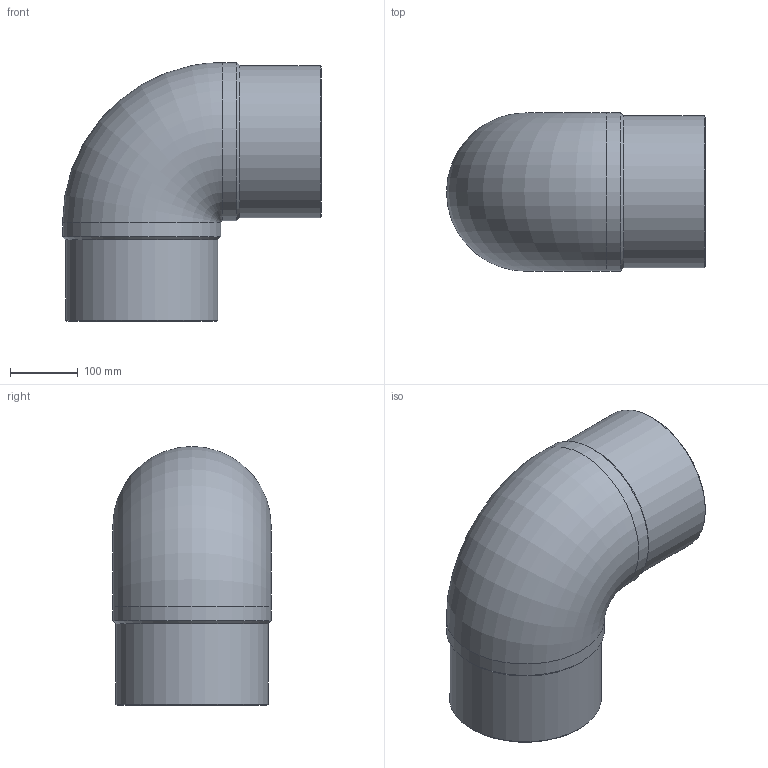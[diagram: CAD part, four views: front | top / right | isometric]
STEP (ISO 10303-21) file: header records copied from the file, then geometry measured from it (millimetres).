
FILE_DESCRIPTION(/* description */ ('Unknown'),/* implementation_level */ '2;1');
FILE_NAME(/* name */ 'G9P225G',/* time_stamp */ '2021-06-22T11:00:38+02:00',/* author */ ('Unknown'),/* organization */ ('Unknown'),/* preprocessor_version */ 'ST-DEVELOPER v16.7',/* originating_system */ 'Solid Edge',/* authorisation */ 'Unknown');
FILE_SCHEMA (('AUTOMOTIVE_DESIGN {1 0 10303 214 3 1 1}'));
Length unit declared in the file: millimetre
Products named in the file (1): G9P225G
Bounding box: 383 x 234 x 383 mm (x, y, z)
Volume: 8467799 mm3; surface area: 643854.8 mm2
Topology: 1 solids, 1 shells, 14 faces, 34 edges, 22 vertices
Faces by surface type: cylinder 6, cone 4, torus 2, plane 2
Full cylindrical faces by diameter (mm): 174.6 x2, 225 x2, 234 x2
Entity records: 380 total; most frequent: CARTESIAN_POINT 80, DIRECTION 60, ORIENTED_EDGE 38, AXIS2_PLACEMENT_3D 30, EDGE_LOOP 27, FACE_BOUND 27, EDGE_CURVE 19, VERTEX_POINT 18
